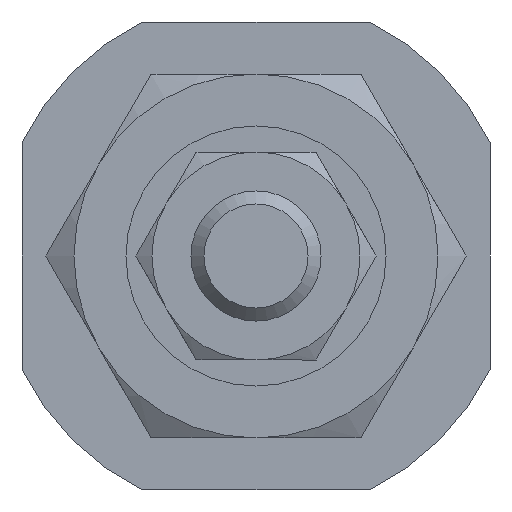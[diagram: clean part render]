
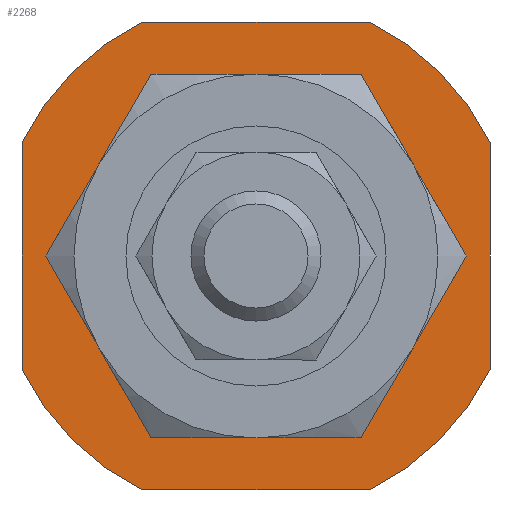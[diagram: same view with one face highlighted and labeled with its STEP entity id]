
A CAD part, left-side view. The second image highlights one B-rep face of the part: STEP entity #2268.
In plain terms, the highlighted planar face has unit normal (-1, 0, 0).
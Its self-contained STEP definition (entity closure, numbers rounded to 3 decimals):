
#1929=CARTESIAN_POINT('',(-15.899,-4.359,9.));
#1930=VERTEX_POINT('',#1929);
#1945=CARTESIAN_POINT('',(-15.899,4.359,9.0));
#1946=VERTEX_POINT('',#1945);
#1953=CARTESIAN_POINT('',(-15.899,-4.359,9.));
#1954=DIRECTION('',(0.0,1.0,0.0));
#1955=VECTOR('',#1954,8.718);
#1956=LINE('',#1953,#1955);
#1957=EDGE_CURVE('',#1930,#1946,#1956,.T.);
#1972=CARTESIAN_POINT('',(-15.899,9.,4.359));
#1973=VERTEX_POINT('',#1972);
#1988=CARTESIAN_POINT('',(-15.899,9.,-4.359));
#1989=VERTEX_POINT('',#1988);
#1996=CARTESIAN_POINT('',(-15.899,9.,4.359));
#1997=DIRECTION('',(0.0,0.0,-1.0));
#1998=VECTOR('',#1997,8.718);
#1999=LINE('',#1996,#1998);
#2000=EDGE_CURVE('',#1973,#1989,#1999,.T.);
#2012=CARTESIAN_POINT('',(-15.899,-9.,-4.359));
#2013=VERTEX_POINT('',#2012);
#2028=CARTESIAN_POINT('',(-15.899,-9.,4.359));
#2029=VERTEX_POINT('',#2028);
#2036=CARTESIAN_POINT('',(-15.899,-9.,-4.359));
#2037=DIRECTION('',(0.0,0.0,1.0));
#2038=VECTOR('',#2037,8.718);
#2039=LINE('',#2036,#2038);
#2040=EDGE_CURVE('',#2013,#2029,#2039,.T.);
#2085=CARTESIAN_POINT('',(-15.899,4.359,-9.0));
#2086=VERTEX_POINT('',#2085);
#2101=CARTESIAN_POINT('',(-15.899,-4.359,-9.));
#2102=VERTEX_POINT('',#2101);
#2109=CARTESIAN_POINT('',(-15.899,4.359,-9.0));
#2110=DIRECTION('',(0.0,-1.0,0.0));
#2111=VECTOR('',#2110,8.718);
#2112=LINE('',#2109,#2111);
#2113=EDGE_CURVE('',#2086,#2102,#2112,.T.);
#2218=CARTESIAN_POINT('',(-15.899,7.5,0.0));
#2219=DIRECTION('',(-1.0,0.0,0.0));
#2220=DIRECTION('',(0.0,0.0,1.0));
#2221=AXIS2_PLACEMENT_3D('',#2218,#2219,#2220);
#2222=PLANE('',#2221);
#2223=ORIENTED_EDGE('',*,*,#1957,.T.);
#2224=CARTESIAN_POINT('',(-15.899,0.,0.0));
#2225=DIRECTION('',(-1.0,0.0,0.0));
#2226=DIRECTION('',(0.0,1.0,0.0));
#2227=AXIS2_PLACEMENT_3D('',#2224,#2225,#2226);
#2228=CIRCLE('',#2227,10.);
#2229=EDGE_CURVE('',#1946,#1973,#2228,.T.);
#2230=ORIENTED_EDGE('',*,*,#2229,.T.);
#2231=ORIENTED_EDGE('',*,*,#2000,.T.);
#2232=CARTESIAN_POINT('',(-15.899,0.,0.0));
#2233=DIRECTION('',(-1.0,0.0,0.0));
#2234=DIRECTION('',(0.0,1.0,0.0));
#2235=AXIS2_PLACEMENT_3D('',#2232,#2233,#2234);
#2236=CIRCLE('',#2235,10.);
#2237=EDGE_CURVE('',#1989,#2086,#2236,.T.);
#2238=ORIENTED_EDGE('',*,*,#2237,.T.);
#2239=ORIENTED_EDGE('',*,*,#2113,.T.);
#2240=CARTESIAN_POINT('',(-15.899,0.,0.0));
#2241=DIRECTION('',(-1.0,0.0,0.0));
#2242=DIRECTION('',(0.0,1.0,0.0));
#2243=AXIS2_PLACEMENT_3D('',#2240,#2241,#2242);
#2244=CIRCLE('',#2243,10.);
#2245=EDGE_CURVE('',#2102,#2013,#2244,.T.);
#2246=ORIENTED_EDGE('',*,*,#2245,.T.);
#2247=ORIENTED_EDGE('',*,*,#2040,.T.);
#2248=CARTESIAN_POINT('',(-15.899,0.,0.0));
#2249=DIRECTION('',(-1.0,0.0,0.0));
#2250=DIRECTION('',(0.0,1.0,0.0));
#2251=AXIS2_PLACEMENT_3D('',#2248,#2249,#2250);
#2252=CIRCLE('',#2251,10.);
#2253=EDGE_CURVE('',#2029,#1930,#2252,.T.);
#2254=ORIENTED_EDGE('',*,*,#2253,.T.);
#2255=EDGE_LOOP('',(#2223,#2230,#2231,#2238,#2239,#2246,#2247,#2254));
#2256=FACE_OUTER_BOUND('',#2255,.T.);
#2257=CARTESIAN_POINT('',(-15.899,5.0,0.0));
#2258=VERTEX_POINT('',#2257);
#2259=CARTESIAN_POINT('',(-15.899,0.,0.0));
#2260=DIRECTION('',(-1.0,0.0,0.0));
#2261=DIRECTION('',(0.0,1.0,0.0));
#2262=AXIS2_PLACEMENT_3D('',#2259,#2260,#2261);
#2263=CIRCLE('',#2262,5.);
#2264=EDGE_CURVE('',#2258,#2258,#2263,.T.);
#2265=ORIENTED_EDGE('',*,*,#2264,.F.);
#2266=EDGE_LOOP('',(#2265));
#2267=FACE_BOUND('',#2266,.T.);
#2268=ADVANCED_FACE('',(#2256,#2267),#2222,.T.);
